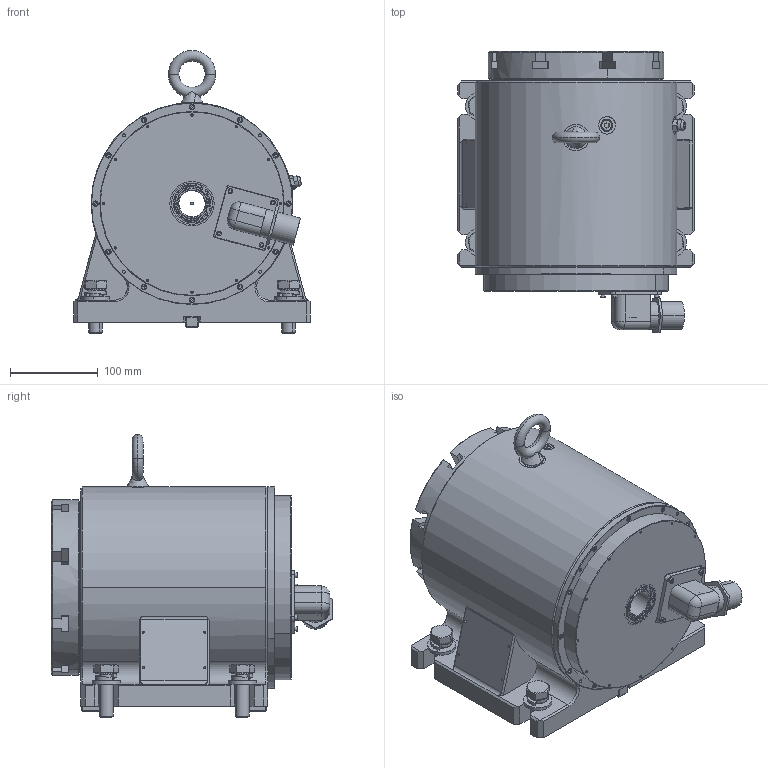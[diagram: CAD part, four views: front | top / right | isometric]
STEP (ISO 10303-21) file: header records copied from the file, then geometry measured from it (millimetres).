
FILE_DESCRIPTION (( 'STEP AP214' ), '1' );
FILE_NAME ('KCR-200FEDF 軞蚾饜芞.STEP', '2022-09-29T03:02:55', ( 'Admin' ), ( '' ), 'SwSTEP 2.0', 'SolidWorks 2020', '' );
FILE_SCHEMA (( 'AUTOMOTIVE_DESIGN' ));
Length unit declared in the file: millimetre
Products named in the file (1): KCR-200FEDF 軞蚾饜芞
Bounding box: 270 x 320.6 x 322.5 mm (x, y, z)
Volume: 4769069.9 mm3; surface area: 981015.1 mm2
Topology: 76 solids, 76 shells, 2553 faces, 6093 edges, 3751 vertices
Faces by surface type: plane 883, cylinder 776, cone 402, torus 294, sphere 172, bspline 26
Entity records: 109381 total; most frequent: CARTESIAN_POINT 21126, DIRECTION 13007, ORIENTED_EDGE 11958, EDGE_CURVE 5979, AXIS2_PLACEMENT_3D 5267, VERTEX_POINT 3747, EDGE_LOOP 2968, CIRCLE 2739
